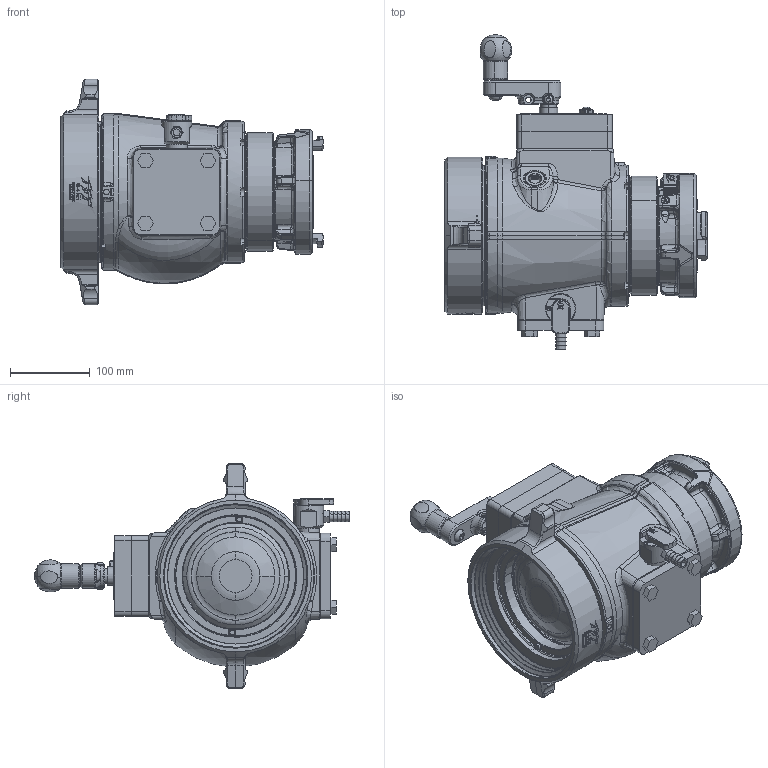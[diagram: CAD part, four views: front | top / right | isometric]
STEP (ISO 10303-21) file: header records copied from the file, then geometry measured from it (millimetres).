
FILE_DESCRIPTION (( 'STEP AP203' ), '1' );
FILE_NAME ('AQ1SP-NX-PS.step', '2014-05-13T19:16:16', ( 'user' ), ( '' ), 'SwSTEP 2.0', 'SolidWorks 2012', '' );
FILE_SCHEMA (( 'CONFIG_CONTROL_DESIGN' ));
Length unit declared in the file: inch
Products named in the file (1): AQ1SP-NX-PS
Bounding box: 329.22 x 395.73 x 283.46 mm (x, y, z)
Surface area: 492399.3 mm2 (no closed solid volume)
Topology: 0 solids, 74 shells, 1628 faces, 5961 edges, 4249 vertices
Faces by surface type: plane 501, cylinder 369, bspline 334, cone 246, torus 156, sphere 22
Entity records: 85552 total; most frequent: CARTESIAN_POINT 40712, ORIENTED_EDGE 9307, DIRECTION 8059, EDGE_CURVE 5928, VERTEX_POINT 4243, AXIS2_PLACEMENT_3D 2983, VECTOR 2093, LINE 2093
